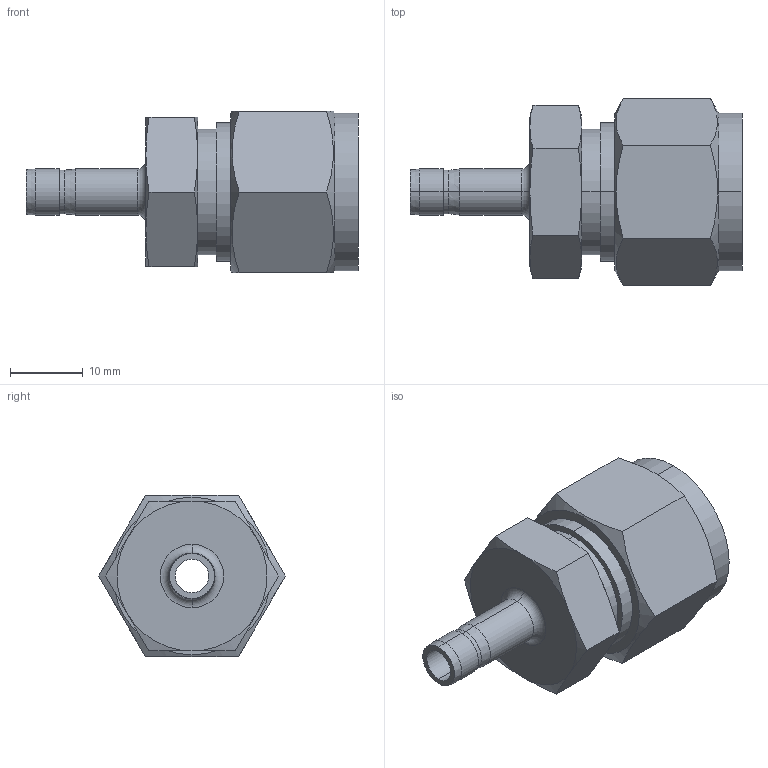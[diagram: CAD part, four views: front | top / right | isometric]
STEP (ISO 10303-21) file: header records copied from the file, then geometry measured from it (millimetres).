
FILE_DESCRIPTION (( 'STEP AP203' ), '1' );
FILE_NAME ('DRE08-04 SS.STEP', '2009-09-08T08:38:12', ( ' ' ), ( '' ), 'SwSTEP 2.0', 'SolidWorks 2008', '' );
FILE_SCHEMA (( 'CONFIG_CONTROL_DESIGN' ));
Length unit declared in the file: millimetre
Products named in the file (1): DRE08-04 SS
Bounding box: 45.7 x 25.67 x 22.23 mm (x, y, z)
Volume: 8106.4 mm3; surface area: 4691.4 mm2
Topology: 1 solids, 1 shells, 63 faces, 138 edges, 82 vertices
Faces by surface type: cone 24, plane 19, cylinder 18, torus 2
Entity records: 1965 total; most frequent: CARTESIAN_POINT 540, DIRECTION 282, ORIENTED_EDGE 276, EDGE_CURVE 138, AXIS2_PLACEMENT_3D 120, VERTEX_POINT 82, EDGE_LOOP 70, ADVANCED_FACE 63
